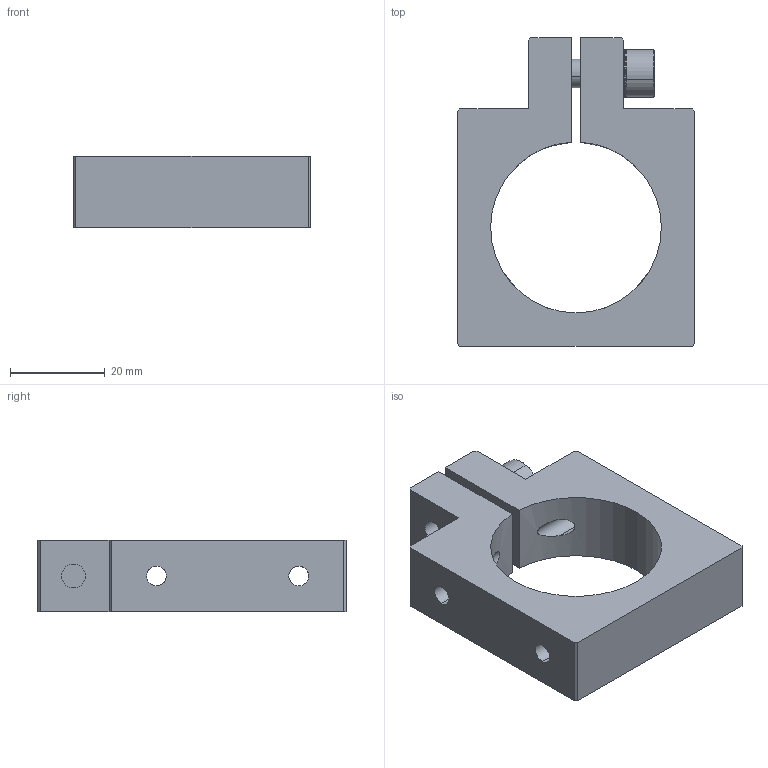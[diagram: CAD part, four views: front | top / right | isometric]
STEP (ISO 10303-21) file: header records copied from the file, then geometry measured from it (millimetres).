
FILE_DESCRIPTION (( 'STEP AP214' ), '1' );
FILE_NAME ('SCE4-NR10T.STEP', '2023-01-13T08:28:00', ( 'Windows User' ), ( 'P R C' ), 'SwSTEP 2.0', 'SolidWorks 2019', '' );
FILE_SCHEMA (( 'AUTOMOTIVE_DESIGN' ));
Length unit declared in the file: millimetre
Products named in the file (4): SCE4-NR10; PTC-M6L16; SCE4-NR10T; PTS-M6
Assembly tree (3 placements, depth 2):
  SCE4-NR10T
    SCE4-NR10
    PTC-M6L16
    PTS-M6
Bounding box: 50 x 65 x 15 mm (x, y, z)
Volume: 25557 mm3; surface area: 10933 mm2
Topology: 3 solids, 3 shells, 218 faces, 634 edges, 422 vertices
Faces by surface type: plane 189, cylinder 23, cone 6
Entity records: 7758 total; most frequent: CARTESIAN_POINT 1512, DIRECTION 1282, ORIENTED_EDGE 1268, EDGE_CURVE 634, AXIS2_PLACEMENT_3D 432, VERTEX_POINT 422, LINE 418, VECTOR 418
